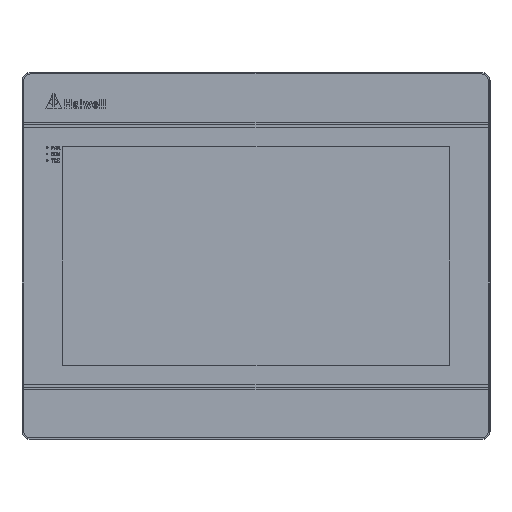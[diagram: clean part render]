
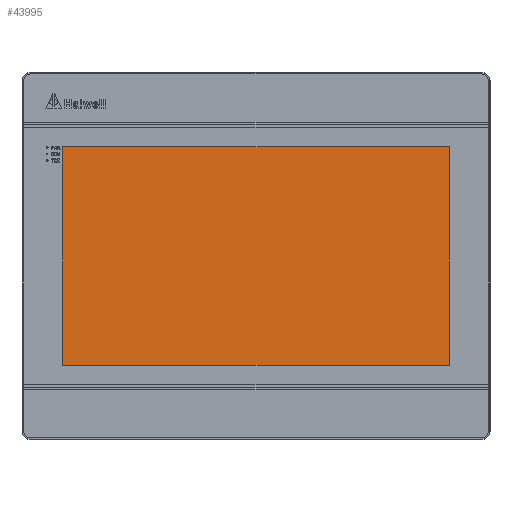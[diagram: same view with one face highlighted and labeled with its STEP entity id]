
A CAD part, top view. The second image highlights one B-rep face of the part: STEP entity #43995.
In plain terms, the highlighted planar face has unit normal (0, 0, 1).
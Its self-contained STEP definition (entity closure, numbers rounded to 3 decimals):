
#1041 = VECTOR ( 'NONE', #80454, 1000. ) ;
#4497 = ORIENTED_EDGE ( 'NONE', *, *, #45435, .T. ) ;
#11892 = DIRECTION ( 'NONE',  ( 0., 0., 1. ) ) ;
#12141 = EDGE_CURVE ( 'NONE', #56309, #81565, #34438, .T. ) ;
#12534 = ORIENTED_EDGE ( 'NONE', *, *, #50271, .T. ) ;
#12749 = DIRECTION ( 'NONE',  ( 1., 0., 0. ) ) ;
#14142 = LINE ( 'NONE', #20631, #1041 ) ;
#15113 = CARTESIAN_POINT ( 'NONE',  ( 111.5, -63., 4.2 ) ) ;
#15689 = EDGE_CURVE ( 'NONE', #81565, #22836, #14142, .T. ) ;
#20631 = CARTESIAN_POINT ( 'NONE',  ( -111.5, -63., 4.2 ) ) ;
#22836 = VERTEX_POINT ( 'NONE', #25175 ) ;
#23651 = LINE ( 'NONE', #49658, #28073 ) ;
#25175 = CARTESIAN_POINT ( 'NONE',  ( 111.5, -63., 4.2 ) ) ;
#28073 = VECTOR ( 'NONE', #30184, 1000. ) ;
#30184 = DIRECTION ( 'NONE',  ( -1., 0., 0. ) ) ;
#30729 = EDGE_LOOP ( 'NONE', ( #80941, #81926, #12534, #4497 ) ) ;
#34438 = LINE ( 'NONE', #34883, #74012 ) ;
#34883 = CARTESIAN_POINT ( 'NONE',  ( -111.5, 63., 4.2 ) ) ;
#38774 = CARTESIAN_POINT ( 'NONE',  ( 130., 101., 4.2 ) ) ;
#42827 = LINE ( 'NONE', #15113, #83868 ) ;
#43964 = VERTEX_POINT ( 'NONE', #70853 ) ;
#43995 = ADVANCED_FACE ( 'NONE', ( #57385 ), #72138, .T. ) ;
#45435 = EDGE_CURVE ( 'NONE', #43964, #56309, #23651, .T. ) ;
#48902 = DIRECTION ( 'NONE',  ( 0., 1., 0. ) ) ;
#49658 = CARTESIAN_POINT ( 'NONE',  ( 111.5, 63., 4.2 ) ) ;
#50271 = EDGE_CURVE ( 'NONE', #22836, #43964, #42827, .T. ) ;
#51238 = AXIS2_PLACEMENT_3D ( 'NONE', #38774, #11892, #12749 ) ;
#56309 = VERTEX_POINT ( 'NONE', #66090 ) ;
#56602 = CARTESIAN_POINT ( 'NONE',  ( -111.5, -63., 4.2 ) ) ;
#57385 = FACE_OUTER_BOUND ( 'NONE', #30729, .T. ) ;
#61301 = DIRECTION ( 'NONE',  ( 0., -1., 0. ) ) ;
#66090 = CARTESIAN_POINT ( 'NONE',  ( -111.5, 63., 4.2 ) ) ;
#70853 = CARTESIAN_POINT ( 'NONE',  ( 111.5, 63., 4.2 ) ) ;
#72138 = PLANE ( 'NONE',  #51238 ) ;
#74012 = VECTOR ( 'NONE', #61301, 1000. ) ;
#80454 = DIRECTION ( 'NONE',  ( 1., 0., 0. ) ) ;
#80941 = ORIENTED_EDGE ( 'NONE', *, *, #12141, .T. ) ;
#81565 = VERTEX_POINT ( 'NONE', #56602 ) ;
#81926 = ORIENTED_EDGE ( 'NONE', *, *, #15689, .T. ) ;
#83868 = VECTOR ( 'NONE', #48902, 1000. ) ;
